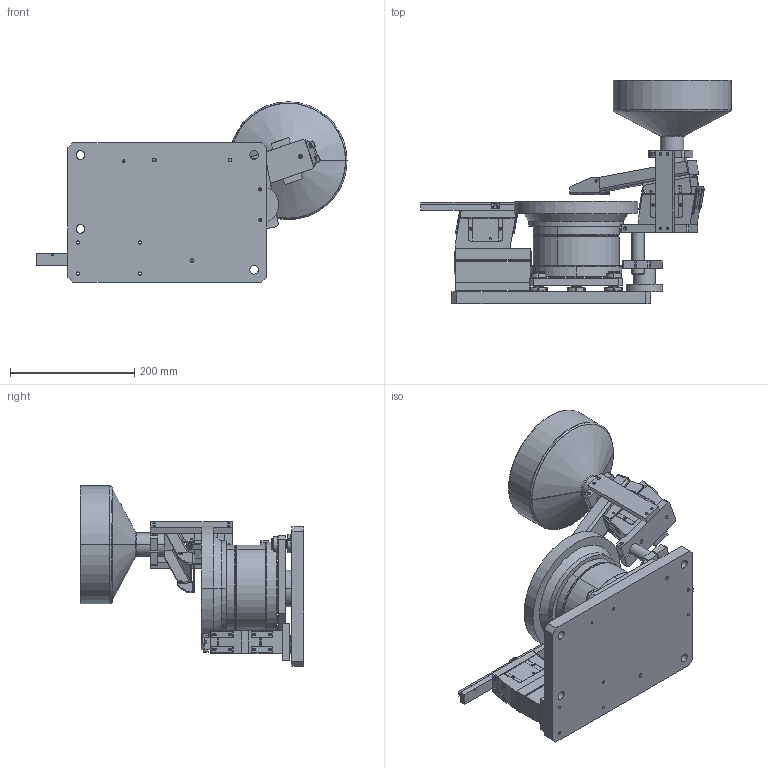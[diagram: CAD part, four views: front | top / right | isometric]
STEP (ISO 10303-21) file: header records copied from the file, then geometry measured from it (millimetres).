
FILE_DESCRIPTION((''),'2;1');
FILE_NAME('G_ASM','2023-06-23T15:47:23',('Administrator'),(''),'CREO PARAMETRIC BY PTC INC, 2021164','CREO PARAMETRIC BY PTC INC, 2021164','');
FILE_SCHEMA(('CONFIG_CONTROL_DESIGN'));
Length unit declared in the file: millimetre
Products named in the file (42): G1; BU140-1; BU140-2; BU140-3; BU140-4; BU140-20; BU140-21; BU140-22; BU140_5_ASM; BU140_ASM; B200; LT1; LT2; LT3; DS-P1; LT_ASM; LF100C-1; LF100C-2; SPRING35-9; LF100C-3; EM35-15-24_5; EM35-15-I; LF100C-15; LF100C_V_ASM; LF100C-10; LF100C-11; LF100C-12; LF100C_B_ASM; LF100C_ASM; HP100-6; HP100-5; HP100-2; HP100-1; HP100-10; HP100A-11; HP100A-12; HP100A-3; HP100A-4; HP100A-30; HP100A-13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
Assembly tree (55 placements, depth 4):
  G_ASM
    G1
    BU140_ASM
      BU140-1
      BU140-2
      BU140-3
      BU140-4
      BU140_5_ASM  x3
        BU140-20
        BU140-21
        BU140-22
    B200
    LT_ASM
      LT1
      LT2
      LT3
      DS-P1  x2
    LF100C_ASM
      LF100C_V_ASM
        LF100C-1
        LF100C-2
        SPRING35-9  x4
        LF100C-3  x2
        EM35-15-24_5
        EM35-15-I
        LF100C-15  x2
      LF100C_B_ASM
        LF100C-10
        LF100C-11
        LF100C-12
        SPRING35-9  x4
    HP100A_ASM
      HP100-6
      HP100-5
      HP100-2
      HP100-1
      LF100C_V_ASM
        LF100C-1
        LF100C-2
        SPRING35-9  x4
        LF100C-3  x2
        EM35-15-24_5
        EM35-15-I
        LF100C-15  x2
      HP100-10
      HP100A-11
      HP100A-12
      HP100A-3
      HP100A-4  x2
      HP100A-30
      HP100A-13
Bounding box: 499.78 x 360 x 290.8 mm (x, y, z)
Volume: 4288246.1 mm3; surface area: 936723.2 mm2
Topology: 63 solids, 165 shells, 1648 faces, 4150 edges, 2643 vertices
Faces by surface type: cylinder 813, plane 623, cone 204, torus 8
Entity records: 32385 total; most frequent: DIRECTION 6031, CARTESIAN_POINT 5757, ORIENTED_EDGE 4706, EDGE_CURVE 2505, AXIS2_PLACEMENT_3D 2357, VERTEX_POINT 1643, VECTOR 1317, LINE 1317
